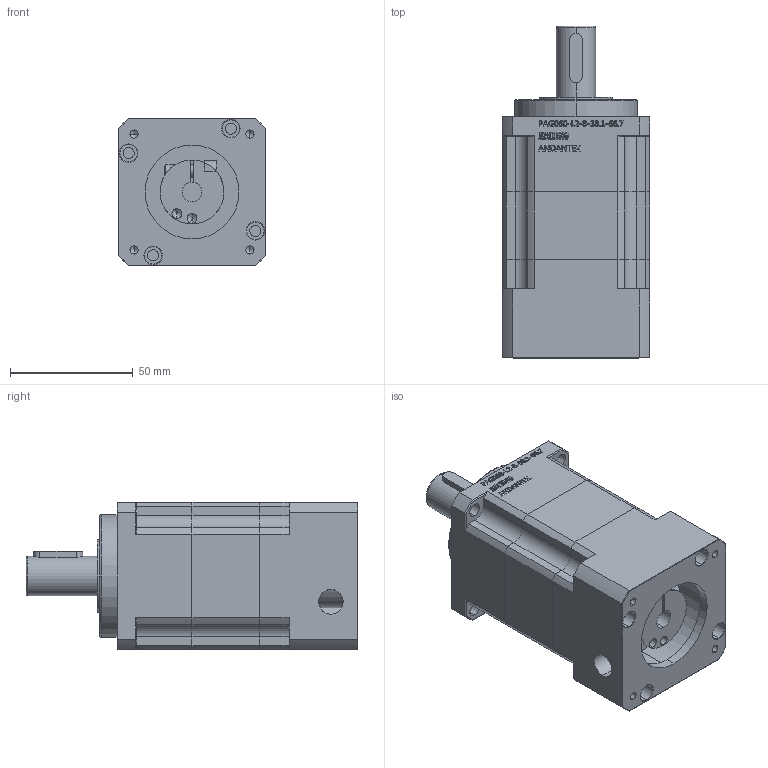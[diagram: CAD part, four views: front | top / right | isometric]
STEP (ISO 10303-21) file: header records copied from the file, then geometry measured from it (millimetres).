
FILE_DESCRIPTION (( 'STEP AP203' ), '1' );
FILE_NAME ('PAG060-L2-8-38.1-66.7.STEP', '2022-07-18T07:40:19', ( 'Windows User' ), ( 'P R C' ), 'SwSTEP 2.0', 'SolidWorks 2016', '' );
FILE_SCHEMA (( 'CONFIG_CONTROL_DESIGN' ));
Length unit declared in the file: millimetre
Products named in the file (6): PAG60俋倛芞奻裔啣_72T; PAG60俋倛芞狟裔啣-8-38.1-66.7-M4; 邧埴瑩 5x5x20; PAG60外形图二级齿圈_72T; 囀鞠褒蹟佪-M5℅16; PAG060-L2-8-38.1-66.7
Assembly tree (5 placements, depth 2):
  PAG060-L2-8-38.1-66.7
    PAG60俋倛芞奻裔啣_72T
    PAG60俋倛芞狟裔啣-8-38.1-66.7-M4
    邧埴瑩 5x5x20
    PAG60外形图二级齿圈_72T
    囀鞠褒蹟佪-M5℅16
Bounding box: 60 x 135 x 60 mm (x, y, z)
Volume: 313325.4 mm3; surface area: 61195.8 mm2
Topology: 5 solids, 5 shells, 878 faces, 2310 edges, 1513 vertices
Faces by surface type: plane 501, bspline 196, cylinder 131, cone 42, torus 8
Entity records: 36706 total; most frequent: CARTESIAN_POINT 15583, ORIENTED_EDGE 4576, DIRECTION 3542, EDGE_CURVE 2288, LINE 1550, VECTOR 1550, VERTEX_POINT 1513, AXIS2_PLACEMENT_3D 996
